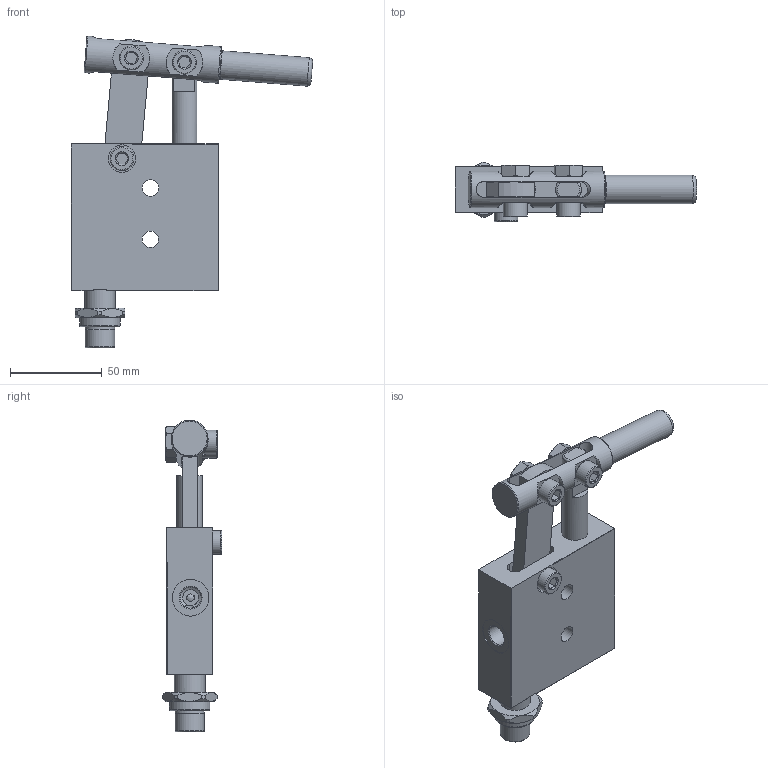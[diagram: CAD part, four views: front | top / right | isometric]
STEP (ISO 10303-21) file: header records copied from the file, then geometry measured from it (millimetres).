
FILE_DESCRIPTION(/* description */ ('Unknown'),/* implementation_level */ '2;1');
FILE_NAME(/* name */ 'HPBSE2,5VIP',/* time_stamp */ '2024-11-27T16:54:45+01:00',/* author */ ('Unknown'),/* organization */ ('Unknown'),/* preprocessor_version */ 'ST-DEVELOPER v19.4',/* originating_system */ 'Solid Edge',/* authorisation */ 'Unknown');
FILE_SCHEMA (('AUTOMOTIVE_DESIGN {1 0 10303 214 3 1 1}'));
Length unit declared in the file: millimetre
Products named in the file (1): HPBSE2,5VIP
Bounding box: 131.24 x 32.5 x 169.65 mm (x, y, z)
Volume: 194146.7 mm3; surface area: 51195.5 mm2
Topology: 3 solids, 3 shells, 273 faces, 689 edges, 448 vertices
Faces by surface type: plane 148, cylinder 69, cone 32, torus 17, sphere 4, bspline 3
Full cylindrical faces by diameter (mm): 3.5 x1, 4 x2, 4.917 x1, 5 x1, 8 x6, 8.1 x2, 8.376 x2, 8.566 x5, 9 x2, 11.445 x2, 12 x1, 12.08 x2, 13 x3, 14 x1, 14.95 x1, 15 x2, 15.5 x1, 16 x2, 16.662 x1, 20 x3, 22 x1
Entity records: 12755 total; most frequent: CARTESIAN_POINT 5262, DIRECTION 1119, ORIENTED_EDGE 1038, EDGE_CURVE 519, AXIS2_PLACEMENT_3D 453, EDGE_LOOP 420, FACE_BOUND 420, VERTEX_POINT 375
